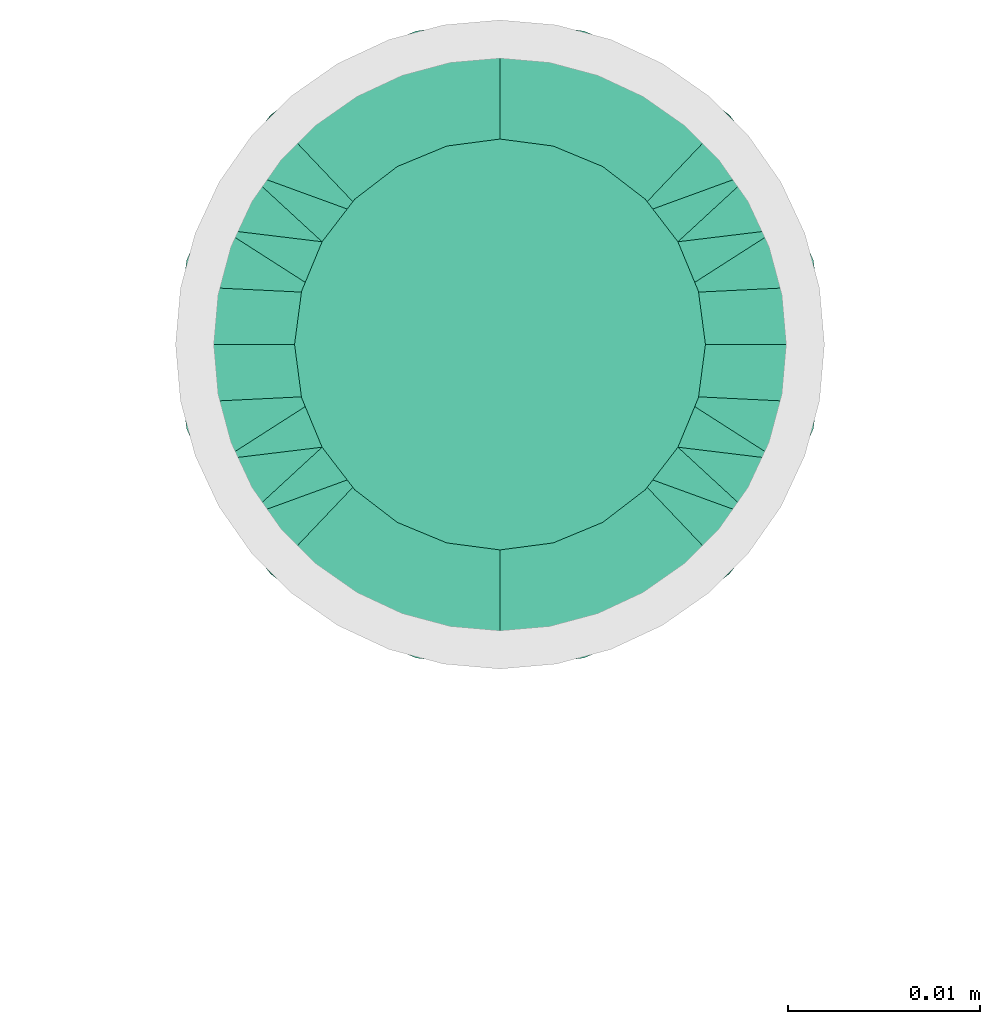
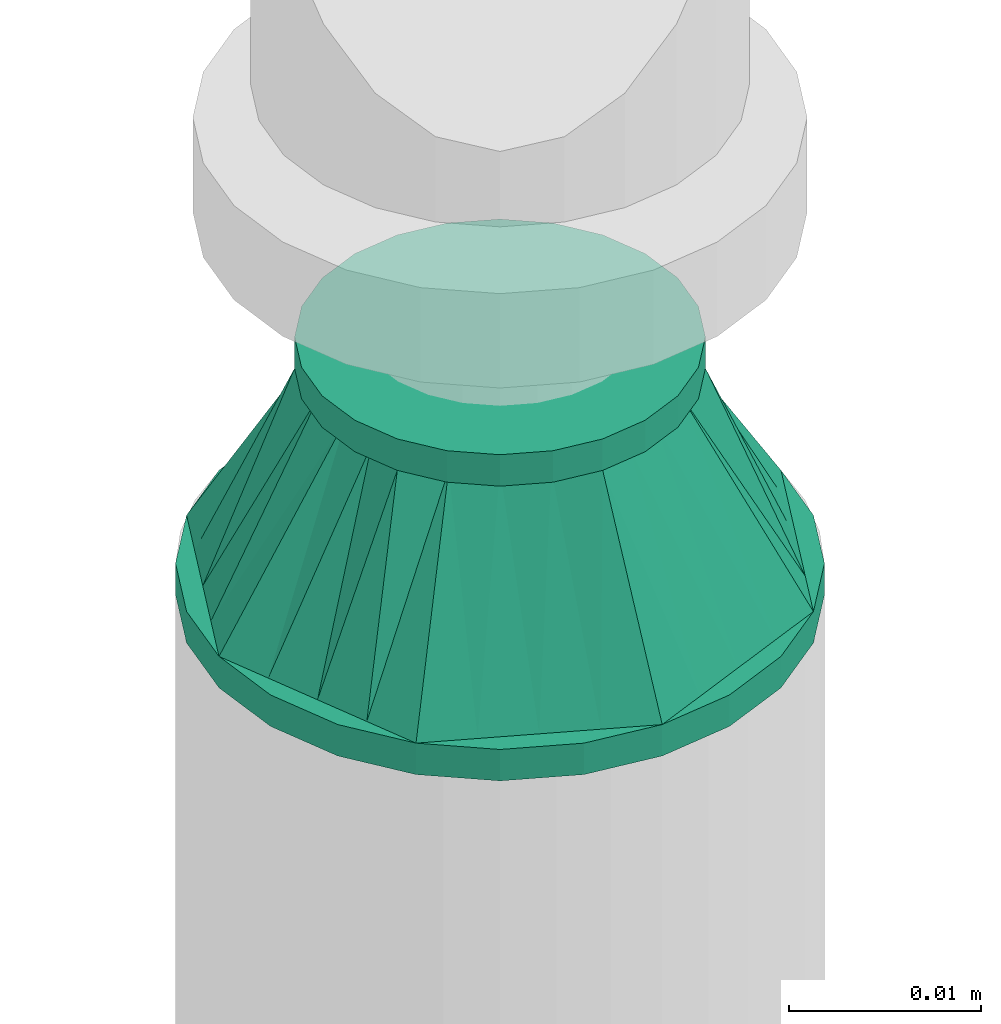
# One storey, part 27 of 44: 1 flow fitting.
"""IFC2X3 building model written with IfcOpenShell, lengths in millimetres."""

from ifc_helpers import new_model, entity, si_unit, converted_unit, derived_unit, direction, frame, origin_with_axes, place, context, subcontext, project, spatial, open_shell, surface_model, source, transform, mapped, type_object, element, save


model = new_model("IFC2X3")

# Units and contexts
model_context = context("Model", 3, precision=0.01, world=frame((0.0, 4.29681676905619e-09, 0.0)), true_north=direction((4.01073788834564e-13, 1.0)))
plan_context = context("Plan", 3, precision=0.01, world=frame((0.0, 4.29681676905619e-09, 0.0)), true_north=direction((4.01073788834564e-13, 1.0)))
body_context = subcontext(model_context, "Body", "Model", "MODEL_VIEW")
ifc_project = project(units=[converted_unit("PLANEANGLEUNIT", "DEGREE", entity("IfcPositiveLengthMeasure", 0.0174532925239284), si_unit("PLANEANGLEUNIT", "RADIAN"), dimensions=[0, 0, 0, 0, 0, 0, 0]), si_unit("AREAUNIT", "SQUARE_METRE"), si_unit("LENGTHUNIT", "METRE", prefix="MILLI"), si_unit("MASSUNIT", "GRAM", prefix="KILO"), si_unit("POWERUNIT", "WATT"), si_unit("PRESSUREUNIT", "PASCAL"), si_unit("FORCEUNIT", "NEWTON", prefix="KILO"), si_unit("ELECTRICVOLTAGEUNIT", "VOLT"), si_unit("ELECTRICCURRENTUNIT", "AMPERE"), si_unit("THERMODYNAMICTEMPERATUREUNIT", "DEGREE_CELSIUS"), si_unit("TIMEUNIT", "SECOND"), si_unit("VOLUMEUNIT", "CUBIC_METRE"), derived_unit("LINEARVELOCITYUNIT", [(si_unit("LENGTHUNIT", "METRE"), 1), (si_unit("TIMEUNIT", "SECOND"), -1)]), derived_unit("VOLUMETRICFLOWRATEUNIT", [(si_unit("VOLUMEUNIT", "CUBIC_METRE"), 1), (si_unit("TIMEUNIT", "SECOND"), -1)]), derived_unit("THERMALTRANSMITTANCEUNIT", [(si_unit("POWERUNIT", "WATT"), 1), (si_unit("THERMODYNAMICTEMPERATUREUNIT", "KELVIN"), -1), (si_unit("AREAUNIT", "SQUARE_METRE"), -1)]), derived_unit("SOUNDPRESSUREUNIT", [(si_unit("PRESSUREUNIT", "PASCAL"), 1)])], contexts=[model_context, plan_context])

# Site, building, storey
site_placement = place(None, frame((0.0, -4.29681676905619e-09, 0.0), z_axis=(0.0, 0.0, 1.0), x_axis=(1.0, 0.0, 0.0)))
site = spatial("IfcSite", under=ifc_project, at=site_placement, CompositionType="ELEMENT")
building_placement = place(site_placement, frame((0.0, 4.29681676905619e-09, 0.0), z_axis=(0.0, 0.0, 1.0), x_axis=(1.0, 0.0, 0.0)))
building = spatial("IfcBuilding", under=site, at=building_placement, Name="mc-building", CompositionType="ELEMENT")
storey_placement = place(building_placement, frame((0.0, 0.0, 207370.0), z_axis=(0.0, 0.0, 1.0), x_axis=(1.0, 0.0, 0.0)))
storey = spatial("IfcBuildingStorey", under=building, at=storey_placement, Name="Nivå E", CompositionType="ELEMENT", Elevation=207370.0)

# Flow fitting
pipe_fitting_type = type_object("IfcPipeFittingType", Name="magi_pipe_fe_reducer_centric_short_NOR", PredefinedType="TRANSITION")
shared_shape = source(origin_with_axes(), body_context, "Body", "SurfaceModel", [
    surface_model("IfcShellBasedSurfaceModel", [(14.4, 5.35, -9.26647), (14.4, 0.0, -10.7), (14.4, 2.76936, -10.33541), (14.4, 10.33541, -2.76936), (14.4, 7.56604, -7.56604), (14.4, -10.33541, -2.76936), (14.4, 9.26647, -5.35), (14.4, 0.0, 10.7), (14.4, -5.35, -9.26647), (14.4, -2.76936, -10.33541), (14.4, -7.56604, -7.56604), (14.4, -9.26647, -5.35), (14.4, 10.7, 0.0), (14.4, 10.33541, 2.76936), (14.4, 9.26647, 5.35), (14.4, 7.56604, 7.56604), (14.4, 2.76936, 10.33541), (14.4, 5.35, 9.26647), (14.4, -10.33541, 2.76936), (14.4, -7.56604, 7.56604), (14.4, -9.26647, 5.35), (14.4, -10.7, 0.0), (14.4, -2.76936, 10.33541), (14.4, -5.35, 9.26647), (12.4, 2.76936, 10.33541), (12.4, -10.33541, -2.76936), (12.4, 0.0, 10.7), (12.4, 5.35, 9.26647), (12.4, 7.56604, 7.56604), (12.4, 9.26647, 5.35), (12.4, 10.33541, 2.76936), (12.4, -10.33541, 2.76936), (12.4, -2.76936, 10.33541), (12.4, -7.56604, 7.56604), (12.4, -5.35, 9.26647), (12.4, -9.26647, 5.35), (12.4, -10.7, 0.0), (12.4, 10.33541, -2.76936), (12.4, 5.35, -9.26647), (12.4, 9.26647, -5.35), (12.4, 7.56604, -7.56604), (12.4, 2.76936, -10.33541), (12.4, -9.26647, -5.35), (12.4, -5.35, -9.26647), (12.4, -7.56604, -7.56604), (12.4, 0.0, -10.7), (12.4, -2.76936, -10.33541), (12.4, 10.7, 0.0), (-2.0, 11.9501, 11.9501), (-2.0, 0.0, 16.9), (-2.0, 4.37404, 16.32415), (-2.0, 8.45, 14.63583), (-2.0, 14.63583, 8.45), (-2.0, 16.32415, 4.37404), (-2.0, -16.32415, 4.37404), (-2.0, -8.45, 14.63583), (-2.0, -14.63583, 8.45), (-2.0, -11.9501, 11.9501), (-2.0, -4.37404, 16.32415), (-2.0, -16.32415, -4.37404), (-2.0, -16.9, 0.0), (-2.0, -8.45, -14.63583), (-2.0, 16.32415, -4.37404), (-2.0, 11.9501, -11.9501), (-2.0, 14.63583, -8.45), (-2.0, 8.45, -14.63583), (-2.0, 4.37404, -16.32415), (-2.0, 0.0, -16.9), (-2.0, -11.9501, -11.9501), (-2.0, -14.63583, -8.45), (-2.0, -4.37404, -16.32415), (-2.0, 16.9, 0.0), (0.0, 4.37404, -16.32415), (0.0, 8.45, -14.63583), (0.0, 11.9501, -11.9501), (0.0, 0.0, -16.9), (0.0, 16.32415, -4.37404), (0.0, 16.32415, 4.37404), (0.0, 14.63583, -8.45), (0.0, -8.45, -14.63583), (0.0, -4.37404, -16.32415), (0.0, -11.9501, -11.9501), (0.0, -16.32415, -4.37404), (0.0, -14.63583, -8.45), (0.0, -16.32415, 4.37404), (0.0, 16.9, 0.0), (0.0, 14.63583, 8.45), (0.0, 11.9501, 11.9501), (0.0, 4.37404, 16.32415), (0.0, 8.45, 14.63583), (0.0, 0.0, 16.9), (0.0, -14.63583, 8.45), (0.0, -16.9, 0.0), (0.0, -8.45, 14.63583), (0.0, -11.9501, 11.9501), (0.0, -4.37404, 16.32415), (12.4, 9.3625, -2.31662), (0.0, 14.42505, -5.97505), (0.0, 15.66253, -2.98753), (12.4, -6.6875, -6.94985), (0.0, -13.18758, -8.96258), (0.0, 2.98753, -15.66253), (12.4, 0.0, -9.26647), (12.4, 6.6875, -6.94985), (0.0, 8.96258, -13.18758), (12.4, -9.3625, -2.31662), (0.0, -15.66253, -2.98753), (0.0, -14.42505, -5.97505), (0.0, 5.97505, -14.42505), (0.0, -2.98753, -15.66253), (0.0, -8.96258, -13.18758), (0.0, 13.18758, -8.96258), (12.4, 8.025, -4.63324), (12.4, -2.675, -9.26647), (12.4, 2.675, -9.26647), (0.0, -5.97505, -14.42505), (12.4, -8.025, -4.63324), (12.4, -9.3625, 2.31662), (0.0, -14.42505, 5.97505), (0.0, -15.66253, 2.98753), (12.4, 6.6875, 6.94985), (0.0, 13.18758, 8.96258), (0.0, -2.98753, 15.66253), (12.4, 0.0, 9.26647), (12.4, -6.6875, 6.94985), (0.0, -8.96258, 13.18758), (12.4, 9.3625, 2.31662), (0.0, 15.66253, 2.98753), (0.0, 14.42505, 5.97505), (0.0, -5.97505, 14.42505), (0.0, 2.98753, 15.66253), (0.0, 8.96258, 13.18758), (0.0, -13.18758, 8.96258), (12.4, -8.025, 4.63324), (12.4, 2.675, 9.26647), (12.4, -2.675, 9.26647), (0.0, 5.97505, 14.42505), (12.4, 8.025, 4.63324)], [open_shell([[[0, 1, 2]], [[3, 0, 4]], [[5, 0, 3]], [[3, 4, 6]], [[7, 5, 3]], [[1, 8, 9]], [[1, 0, 8]], [[10, 5, 11]], [[5, 10, 8]], [[0, 5, 8]], [[3, 12, 13]], [[13, 14, 15]], [[13, 15, 16]], [[7, 3, 16]], [[16, 15, 17]], [[7, 18, 5]], [[18, 19, 20]], [[21, 5, 18]], [[19, 22, 23]], [[22, 19, 18]], [[7, 22, 18]], [[13, 16, 3]], [[24, 25, 26]], [[27, 25, 24]], [[28, 29, 30]], [[28, 25, 27]], [[31, 26, 25]], [[32, 33, 34]], [[33, 32, 31]], [[33, 31, 35]], [[32, 26, 31]], [[31, 25, 36]], [[30, 37, 28]], [[25, 28, 37]], [[38, 37, 39]], [[37, 38, 25]], [[38, 39, 40]], [[41, 25, 38]], [[42, 43, 44]], [[43, 42, 25]], [[43, 45, 46]], [[43, 25, 41]], [[41, 45, 43]], [[37, 30, 47]], [[25, 5, 36]], [[42, 11, 25]], [[8, 44, 43]], [[42, 44, 10]], [[9, 43, 46]], [[25, 11, 5]], [[5, 21, 36]], [[9, 8, 43]], [[10, 44, 8]], [[10, 11, 42]], [[1, 9, 46]], [[46, 45, 1]], [[41, 2, 45]], [[38, 0, 41]], [[6, 40, 39]], [[38, 40, 4]], [[3, 39, 37]], [[38, 4, 0]], [[0, 2, 41]], [[12, 3, 37]], [[6, 39, 3]], [[6, 4, 40]], [[47, 12, 37]], [[45, 2, 1]], [[30, 13, 47]], [[29, 14, 30]], [[17, 28, 27]], [[29, 28, 15]], [[16, 27, 24]], [[30, 14, 13]], [[13, 12, 47]], [[16, 17, 27]], [[15, 28, 17]], [[15, 14, 29]], [[7, 16, 24]], [[24, 26, 7]], [[32, 22, 26]], [[34, 23, 32]], [[20, 33, 35]], [[34, 33, 19]], [[18, 35, 31]], [[34, 19, 23]], [[23, 22, 32]], [[21, 18, 31]], [[20, 35, 18]], [[20, 19, 33]], [[36, 21, 31]], [[26, 22, 7]], [[48, 49, 50]], [[48, 50, 51]], [[48, 52, 53]], [[48, 53, 49]], [[49, 53, 54]], [[55, 56, 57]], [[55, 58, 49]], [[56, 55, 49]], [[49, 54, 56]], [[54, 59, 60]], [[54, 53, 61]], [[53, 62, 63]], [[63, 62, 64]], [[63, 65, 66]], [[61, 53, 63]], [[67, 63, 66]], [[59, 68, 69]], [[68, 59, 61]], [[61, 67, 70]], [[59, 54, 61]], [[63, 67, 61]], [[53, 71, 62]], [[72, 73, 74]], [[75, 72, 74]], [[74, 76, 77]], [[76, 74, 78]], [[74, 77, 79]], [[75, 79, 80]], [[75, 74, 79]], [[81, 82, 83]], [[82, 81, 79]], [[79, 84, 82]], [[77, 76, 85]], [[77, 86, 87]], [[77, 87, 88]], [[88, 84, 79]], [[88, 87, 89]], [[84, 88, 90]], [[90, 91, 84]], [[92, 82, 84]], [[91, 93, 94]], [[91, 90, 93]], [[93, 90, 95]], [[79, 77, 88]], [[59, 82, 60]], [[69, 83, 59]], [[79, 68, 61]], [[69, 68, 81]], [[80, 61, 70]], [[59, 83, 82]], [[82, 92, 60]], [[80, 79, 61]], [[81, 68, 79]], [[81, 83, 69]], [[75, 80, 70]], [[70, 67, 75]], [[66, 72, 67]], [[65, 73, 66]], [[78, 63, 64]], [[65, 63, 74]], [[76, 64, 62]], [[65, 74, 73]], [[73, 72, 66]], [[85, 76, 62]], [[78, 64, 76]], [[78, 74, 63]], [[71, 85, 62]], [[67, 72, 75]], [[53, 77, 71]], [[52, 86, 53]], [[89, 48, 51]], [[52, 48, 87]], [[88, 51, 50]], [[53, 86, 77]], [[77, 85, 71]], [[88, 89, 51]], [[87, 48, 89]], [[87, 86, 52]], [[90, 88, 50]], [[50, 49, 90]], [[58, 95, 49]], [[55, 93, 58]], [[91, 57, 56]], [[55, 57, 94]], [[84, 56, 54]], [[55, 94, 93]], [[93, 95, 58]], [[92, 84, 54]], [[91, 56, 84]], [[91, 94, 57]], [[60, 92, 54]], [[49, 95, 90]], [[27, 34, 47]], [[47, 34, 43]], [[43, 38, 47]], [[43, 34, 36]], [[90, 87, 94]], [[92, 94, 87]], [[87, 74, 92]], [[75, 92, 74]], [[81, 92, 75]], [[74, 87, 85]], [[96, 97, 98]], [[81, 99, 100]], [[101, 102, 75]], [[98, 85, 47]], [[74, 103, 104]], [[104, 103, 38]], [[105, 106, 107]], [[38, 108, 104]], [[102, 109, 75]], [[110, 99, 81]], [[47, 96, 98]], [[103, 111, 112]], [[109, 102, 113]], [[36, 92, 106]], [[102, 101, 114]], [[110, 115, 43]], [[96, 112, 97]], [[107, 116, 105]], [[36, 106, 105]], [[113, 115, 109]], [[43, 115, 113]], [[116, 107, 100]], [[108, 38, 114]], [[111, 103, 74]], [[111, 97, 112]], [[99, 110, 43]], [[116, 100, 99]], [[101, 108, 114]], [[117, 118, 119]], [[87, 120, 121]], [[122, 123, 90]], [[119, 92, 36]], [[94, 124, 125]], [[125, 124, 34]], [[126, 127, 128]], [[34, 129, 125]], [[123, 130, 90]], [[131, 120, 87]], [[36, 117, 119]], [[124, 132, 133]], [[130, 123, 134]], [[47, 85, 127]], [[123, 122, 135]], [[131, 136, 27]], [[117, 133, 118]], [[128, 137, 126]], [[47, 127, 126]], [[134, 136, 130]], [[27, 136, 134]], [[137, 128, 121]], [[129, 34, 135]], [[132, 124, 94]], [[132, 118, 133]], [[120, 131, 27]], [[137, 121, 120]], [[122, 129, 135]]])]),
])
flow_fitting_placement = place(storey_placement, frame((524500.5875, 459009.83177, 3027.60555000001), z_axis=(1.0, 0.0, 0.0), x_axis=(0.0, 0.0, 1.0)))
element("IfcFlowFitting", 1, at=flow_fitting_placement, inside=storey, type_object=pipe_fitting_type, Name="magi_pipe_fe_reducer_centric_short_NOR", context=body_context, shape_type="MappedRepresentation", body=[
    mapped(shared_shape, transform((0.0, 0.0, 0.0), scale=1.0)),
])

save(model, "model.ifc")
